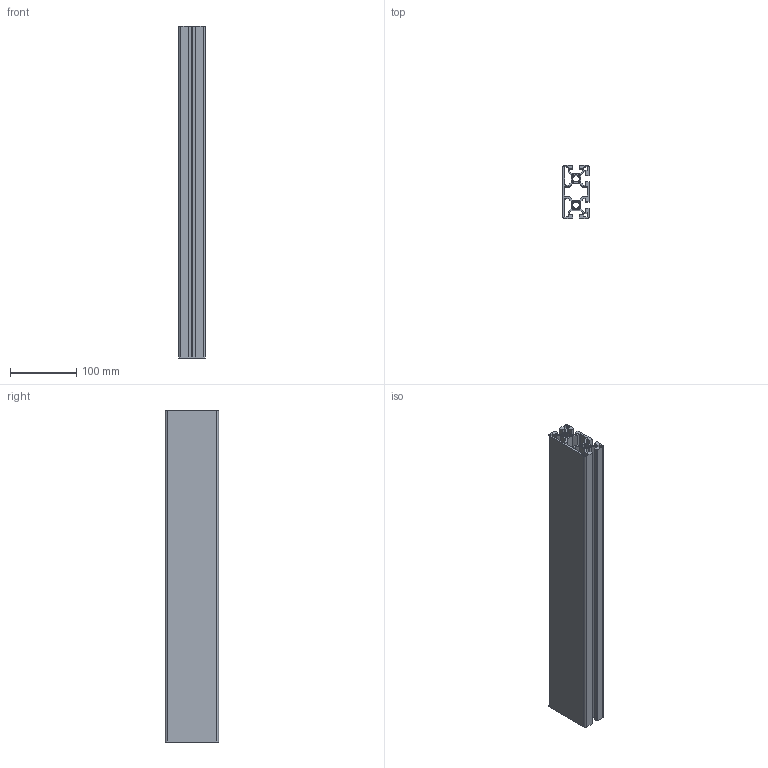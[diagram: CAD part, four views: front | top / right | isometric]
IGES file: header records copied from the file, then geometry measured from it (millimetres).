
Start section: SolidWorks IGES file using analytic representation for surfaces
Global section: file name: C:\Documents and Settings\Administrator\デスクトップ\指定保存後3回目\SolidWorks\SF\SF40・45\Frame\SFF-E484.IGS; native system: SolidWorks 2006 by SolidWorks Corporation; preprocessor: SolidWorks 2006 by SolidWorks Corporation; author: Administrator; date: 061213.113702; units: millimetre
Bounding box: 40 x 80 x 500 mm (x, y, z)
Surface area: 395025.4 mm2 (no closed solid volume)
Topology: 0 solids, 0 shells, 190 faces, 2628 edges, 3192 vertices
Faces by surface type: revolution 96, bspline 94
